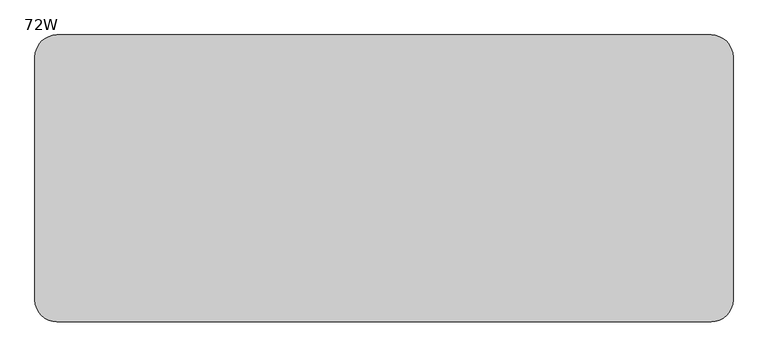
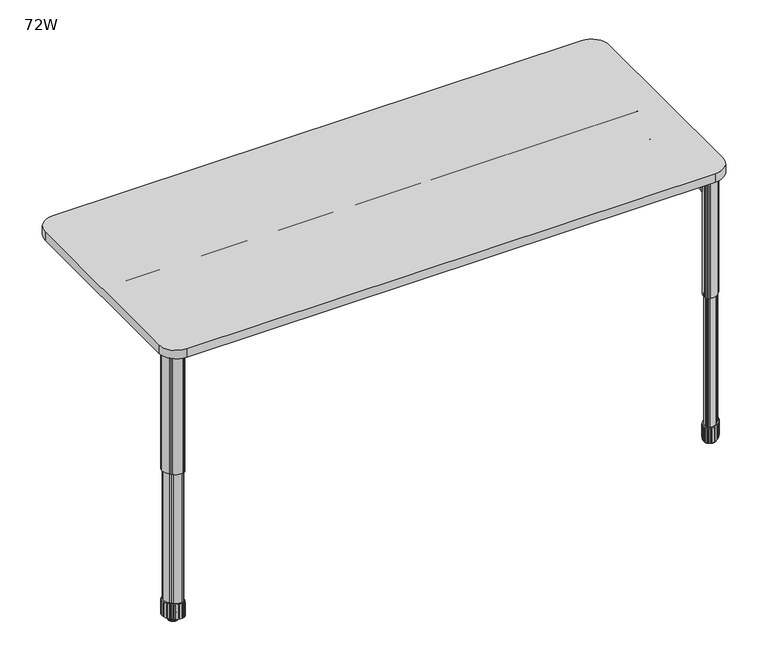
"""IFC4 building model written with IfcOpenShell, lengths in millimetres: furniture geometry, SmithSystem_AM_Table_Education_Interchange_Activity_30D : 72W."""

from ifc_helpers import new_model, si_unit, point, frame, frame_2d, origin, origin_with_axes, place, context, project, spatial, polyline, circle_curve, ellipse_curve, trimmed, segment, composite_curve, outline, extrude, source, transform, mapped, element, save
from ifc_brep_helpers import plane_surface, cylinder_surface, revolved_surface, advanced_brep


def furniture_72w_c9b032af(model_context):
    return source(origin(), model_context, "Body", "SolidModel", [
        extrude(outline(composite_curve([segment(polyline([(1758.2549731, 71.2321565), (1761.8470756, 74.824259), (1765.439178, 78.4163614)]), True, "CONTINUOUS"), segment(trimmed(circle_curve(frame_2d((1788.4806347, 55.3749047)), 32.5855406), [point((1765.439178, 78.4163614))], [point((1792.4518132, 87.7175576))], False, "CARTESIAN"), True, "CONTINUOUS"), segment(trimmed(circle_curve(frame_2d((1790.0540831, 68.1896136)), 19.6745954), [point((1792.4518132, 87.7175576))], [point((1797.6048334, 86.3576041))], False, "CARTESIAN"), True, "CONTINUOUS"), segment(trimmed(circle_curve(frame_2d((1794.1695797, 78.0919809)), 8.9510611), [point((1797.6048334, 86.3576041))], [point((1800.4989357, 84.4213369))], False, "CARTESIAN"), True, "CONTINUOUS"), segment(polyline([(1800.4989357, 84.4213369), (1801.2343195, 83.6859531), (1801.9697032, 82.9505693)]), True, "CONTINUOUS"), segment(trimmed(circle_curve(frame_2d((1795.6403472, 76.6212133)), 8.9510611), [point((1801.9697032, 82.9505693))], [point((1803.9059704, 80.056467))], False, "CARTESIAN"), True, "CONTINUOUS"), segment(trimmed(circle_curve(frame_2d((1785.73798, 72.5057168)), 19.6745954), [point((1803.9059704, 80.056467))], [point((1805.265924, 74.9034468))], False, "CARTESIAN"), True, "CONTINUOUS"), segment(trimmed(circle_curve(frame_2d((1772.923271, 70.9322684)), 32.5855406), [point((1805.265924, 74.9034468))], [point((1795.9647278, 47.8908116))], False, "CARTESIAN"), True, "CONTINUOUS"), segment(polyline([(1795.9647278, 47.8908116), (1792.3726253, 44.2987092), (1788.7805229, 40.7066067)]), True, "CONTINUOUS"), segment(trimmed(circle_curve(frame_2d((1765.7390661, 63.7480635)), 32.5855406), [point((1788.7805229, 40.7066067))], [point((1761.7678877, 31.4054105))], False, "CARTESIAN"), True, "CONTINUOUS"), segment(trimmed(circle_curve(frame_2d((1764.1656177, 50.9333545)), 19.6745954), [point((1761.7678877, 31.4054105))], [point((1756.6148675, 32.7653641))], False, "CARTESIAN"), True, "CONTINUOUS"), segment(trimmed(circle_curve(frame_2d((1760.0501212, 41.0309873)), 8.9510611), [point((1756.6148675, 32.7653641))], [point((1753.7207652, 34.7016313))], False, "CARTESIAN"), True, "CONTINUOUS"), segment(polyline([(1753.7207652, 34.7016313), (1752.9853814, 35.4370151), (1752.2499976, 36.1723988)]), True, "CONTINUOUS"), segment(trimmed(circle_curve(frame_2d((1758.5793536, 42.5017548)), 8.9510611), [point((1752.2499976, 36.1723988))], [point((1750.3137305, 39.0665011))], False, "CARTESIAN"), True, "CONTINUOUS"), segment(trimmed(circle_curve(frame_2d((1768.4817209, 46.6172514)), 19.6745954), [point((1750.3137305, 39.0665011))], [point((1748.9537769, 44.2195213))], False, "CARTESIAN"), True, "CONTINUOUS"), segment(trimmed(circle_curve(frame_2d((1781.2964298, 48.1906998)), 32.5855406), [point((1748.9537769, 44.2195213))], [point((1758.2549731, 71.2321565))], False, "CARTESIAN"), True, "CONTINUOUS")], self_intersect=False)), frame((0.0, 0.0, 12.7079691), z_axis=(0.0, 0.0, 1.0), x_axis=(1.0, 0.0, 0.0)), (0.0, 0.0, 1.0), 50.791766),
        extrude(outline(composite_curve([segment(trimmed(circle_curve(frame_2d((1777.1098504, 59.5614841)), 15.24), [point((1787.8861578, 70.3377914))], [point((1766.3335431, 48.7851767))], False, "CARTESIAN"), True, "CONTINUOUS"), segment(trimmed(circle_curve(frame_2d((1777.1098504, 59.5614841)), 15.24), [point((1766.3335431, 48.7851767))], [point((1787.8861578, 70.3377914))], False, "CARTESIAN"), True, "CONTINUOUS")], self_intersect=False)), origin_with_axes(), (0.0, 0.0, 1.0), 4.0499223),
        extrude(outline(composite_curve([segment(trimmed(circle_curve(frame_2d((1792.3726253, 44.2987092)), 1.27), [point((1793.2706509, 45.1967348))], [point((1791.4745997, 43.4006836))], False, "CARTESIAN"), True, "CONTINUOUS"), segment(polyline([(1791.4745997, 43.4006836), (1792.3726253, 44.2987092), (1793.2706509, 45.1967348)]), True, "CONTINUOUS")], self_intersect=False)), frame((0.0, 0.0, 16.2275456), z_axis=(0.0, 0.0, 1.0), x_axis=(1.0, 0.0, 0.0)), (0.0, 0.0, 1.0), 43.7457423),
        extrude(outline(composite_curve([segment(trimmed(circle_curve(frame_2d((1801.2080101, 83.6596437)), 1.27), [point((1800.3099845, 84.5576694))], [point((1802.1060357, 82.7616181))], False, "CARTESIAN"), True, "CONTINUOUS"), segment(polyline([(1802.1060357, 82.7616181), (1801.2080101, 83.6596437), (1800.3099845, 84.5576694)]), True, "CONTINUOUS")], self_intersect=False)), frame((0.0, 0.0, 16.2275456), z_axis=(0.0, 0.0, 1.0), x_axis=(1.0, 0.0, 0.0)), (0.0, 0.0, 1.0), 43.7457423),
        extrude(outline(composite_curve([segment(polyline([(1752.1136652, 36.36135), (1753.0116908, 35.4633244), (1753.9097164, 34.5652988)]), True, "CONTINUOUS"), segment(trimmed(circle_curve(frame_2d((1753.0116908, 35.4633244)), 1.27), [point((1753.9097164, 34.5652988))], [point((1752.1136652, 36.36135))], False, "CARTESIAN"), True, "CONTINUOUS")], self_intersect=False)), frame((0.0, 0.0, 16.2275456), z_axis=(0.0, 0.0, 1.0), x_axis=(1.0, 0.0, 0.0)), (0.0, 0.0, 1.0), 43.7457423),
        extrude(outline(composite_curve([segment(polyline([(1761.6120338, 31.4439485), (1762.8779787, 31.3425404), (1764.1439236, 31.2411324)]), True, "CONTINUOUS"), segment(trimmed(circle_curve(frame_2d((1762.8779787, 31.3425404)), 1.27), [point((1764.1439236, 31.2411324))], [point((1761.6120338, 31.4439485))], False, "CARTESIAN"), True, "CONTINUOUS")], self_intersect=False)), frame((0.0, 0.0, 16.2275456), z_axis=(0.0, 0.0, 1.0), x_axis=(1.0, 0.0, 0.0)), (0.0, 0.0, 1.0), 43.7457423),
        extrude(outline(composite_curve([segment(polyline([(1772.6909581, 31.960326), (1773.9209477, 32.2765941), (1775.1509373, 32.5928623)]), True, "CONTINUOUS"), segment(trimmed(circle_curve(frame_2d((1773.9209477, 32.2765941)), 1.27), [point((1775.1509373, 32.5928623))], [point((1772.6909581, 31.960326))], False, "CARTESIAN"), True, "CONTINUOUS")], self_intersect=False)), frame((0.0, 0.0, 16.2275456), z_axis=(0.0, 0.0, 1.0), x_axis=(1.0, 0.0, 0.0)), (0.0, 0.0, 1.0), 43.7457423),
        extrude(outline(composite_curve([segment(polyline([(1783.0294057, 36.1581671), (1784.0770478, 36.8760432), (1785.1246899, 37.5939193)]), True, "CONTINUOUS"), segment(trimmed(circle_curve(frame_2d((1784.0770478, 36.8760432)), 1.27), [point((1785.1246899, 37.5939193))], [point((1783.0294057, 36.1581671))], False, "CARTESIAN"), True, "CONTINUOUS")], self_intersect=False)), frame((0.0, 0.0, 16.2275456), z_axis=(0.0, 0.0, 1.0), x_axis=(1.0, 0.0, 0.0)), (0.0, 0.0, 1.0), 43.7457423),
        extrude(outline(composite_curve([segment(trimmed(circle_curve(frame_2d((1805.3287941, 73.7933558)), 1.27), [point((1805.227386, 75.0593007))], [point((1805.4302021, 72.5274109))], False, "CARTESIAN"), True, "CONTINUOUS"), segment(polyline([(1805.4302021, 72.5274109), (1805.3287941, 73.7933558), (1805.227386, 75.0593007)]), True, "CONTINUOUS")], self_intersect=False)), frame((0.0, 0.0, 16.2275456), z_axis=(0.0, 0.0, 1.0), x_axis=(1.0, 0.0, 0.0)), (0.0, 0.0, 1.0), 43.7457423),
        extrude(outline(composite_curve([segment(trimmed(circle_curve(frame_2d((1804.3947404, 62.7503868)), 1.27), [point((1804.7110085, 63.9803764))], [point((1804.0784722, 61.5203972))], False, "CARTESIAN"), True, "CONTINUOUS"), segment(polyline([(1804.0784722, 61.5203972), (1804.3947404, 62.7503868), (1804.7110085, 63.9803764)]), True, "CONTINUOUS")], self_intersect=False)), frame((0.0, 0.0, 16.2275456), z_axis=(0.0, 0.0, 1.0), x_axis=(1.0, 0.0, 0.0)), (0.0, 0.0, 1.0), 43.7457423),
        extrude(outline(composite_curve([segment(trimmed(circle_curve(frame_2d((1799.7952913, 52.5942867)), 1.27), [point((1800.5131674, 53.6419288))], [point((1799.0774152, 51.5466446))], False, "CARTESIAN"), True, "CONTINUOUS"), segment(polyline([(1799.0774152, 51.5466446), (1799.7952913, 52.5942867), (1800.5131674, 53.6419288)]), True, "CONTINUOUS")], self_intersect=False)), frame((0.0, 0.0, 16.2275456), z_axis=(0.0, 0.0, 1.0), x_axis=(1.0, 0.0, 0.0)), (0.0, 0.0, 1.0), 43.7457423),
        extrude(outline(composite_curve([segment(polyline([(1762.7451012, 75.7222846), (1761.8470756, 74.824259), (1760.9490499, 73.9262333)]), True, "CONTINUOUS"), segment(trimmed(circle_curve(frame_2d((1761.8470756, 74.824259)), 1.27), [point((1760.9490499, 73.9262333))], [point((1762.7451012, 75.7222846))], False, "CARTESIAN"), True, "CONTINUOUS")], self_intersect=False)), frame((0.0, 0.0, 16.2275456), z_axis=(0.0, 0.0, 1.0), x_axis=(1.0, 0.0, 0.0)), (0.0, 0.0, 1.0), 43.7457423),
        extrude(outline(composite_curve([segment(trimmed(circle_curve(frame_2d((1748.8909068, 45.3296123)), 1.27), [point((1748.9923149, 44.0636675))], [point((1748.7894988, 46.5955572))], False, "CARTESIAN"), True, "CONTINUOUS"), segment(polyline([(1748.7894988, 46.5955572), (1748.8909068, 45.3296123), (1748.9923149, 44.0636675)]), True, "CONTINUOUS")], self_intersect=False)), frame((0.0, 0.0, 16.2275456), z_axis=(0.0, 0.0, 1.0), x_axis=(1.0, 0.0, 0.0)), (0.0, 0.0, 1.0), 43.7457423),
        extrude(outline(composite_curve([segment(trimmed(circle_curve(frame_2d((1749.8249605, 56.3725813)), 1.27), [point((1749.5086924, 55.1425917))], [point((1750.1412287, 57.602571))], False, "CARTESIAN"), True, "CONTINUOUS"), segment(polyline([(1750.1412287, 57.602571), (1749.8249605, 56.3725813), (1749.5086924, 55.1425917)]), True, "CONTINUOUS")], self_intersect=False)), frame((0.0, 0.0, 16.2275456), z_axis=(0.0, 0.0, 1.0), x_axis=(1.0, 0.0, 0.0)), (0.0, 0.0, 1.0), 43.7457423),
        extrude(outline(composite_curve([segment(trimmed(circle_curve(frame_2d((1754.4244096, 66.5286815)), 1.27), [point((1753.7065335, 65.4810394))], [point((1755.1422857, 67.5763235))], False, "CARTESIAN"), True, "CONTINUOUS"), segment(polyline([(1755.1422857, 67.5763235), (1754.4244096, 66.5286815), (1753.7065335, 65.4810394)]), True, "CONTINUOUS")], self_intersect=False)), frame((0.0, 0.0, 16.2275456), z_axis=(0.0, 0.0, 1.0), x_axis=(1.0, 0.0, 0.0)), (0.0, 0.0, 1.0), 43.7457423),
        extrude(outline(composite_curve([segment(polyline([(1792.607667, 87.6790197), (1791.3417222, 87.7804277), (1790.0757773, 87.8818357)]), True, "CONTINUOUS"), segment(trimmed(circle_curve(frame_2d((1791.3417222, 87.7804277)), 1.27), [point((1790.0757773, 87.8818357))], [point((1792.607667, 87.6790197))], False, "CARTESIAN"), True, "CONTINUOUS")], self_intersect=False)), frame((0.0, 0.0, 16.2275456), z_axis=(0.0, 0.0, 1.0), x_axis=(1.0, 0.0, 0.0)), (0.0, 0.0, 1.0), 43.7457423),
        extrude(outline(composite_curve([segment(polyline([(1781.5287428, 87.1626422), (1780.2987532, 86.846374), (1779.0687635, 86.5301059)]), True, "CONTINUOUS"), segment(trimmed(circle_curve(frame_2d((1780.2987532, 86.846374)), 1.27), [point((1779.0687635, 86.5301059))], [point((1781.5287428, 87.1626422))], False, "CARTESIAN"), True, "CONTINUOUS")], self_intersect=False)), frame((0.0, 0.0, 16.2275456), z_axis=(0.0, 0.0, 1.0), x_axis=(1.0, 0.0, 0.0)), (0.0, 0.0, 1.0), 43.7457423),
        extrude(outline(composite_curve([segment(polyline([(1771.1902951, 82.964801), (1770.1426531, 82.2469249), (1769.095011, 81.5290489)]), True, "CONTINUOUS"), segment(trimmed(circle_curve(frame_2d((1770.1426531, 82.2469249)), 1.27), [point((1769.095011, 81.5290489))], [point((1771.1902951, 82.964801))], False, "CARTESIAN"), True, "CONTINUOUS")], self_intersect=False)), frame((0.0, 0.0, 16.2275456), z_axis=(0.0, 0.0, 1.0), x_axis=(1.0, 0.0, 0.0)), (0.0, 0.0, 1.0), 43.7457423),
        extrude(outline(composite_curve([segment(trimmed(circle_curve(frame_2d((1788.4806347, 55.3749047)), 28.7755406), [point((1768.1332548, 75.7222846))], [point((1791.987491, 83.9359568))], False, "CARTESIAN"), True, "CONTINUOUS"), segment(trimmed(circle_curve(frame_2d((1790.0540831, 68.1896136)), 15.8645954), [point((1791.987491, 83.9359568))], [point((1796.142625, 82.8393592))], False, "CARTESIAN"), True, "CONTINUOUS"), segment(trimmed(circle_curve(frame_2d((1794.1695797, 78.0919809)), 5.1410611), [point((1796.142625, 82.8393592))], [point((1797.8048588, 81.72726))], False, "CARTESIAN"), True, "CONTINUOUS"), segment(polyline([(1797.8048588, 81.72726), (1798.5402426, 80.9918762), (1799.2756264, 80.2564925)]), True, "CONTINUOUS"), segment(trimmed(circle_curve(frame_2d((1795.6403472, 76.6212133)), 5.1410611), [point((1799.2756264, 80.2564925))], [point((1800.3877256, 78.5942586))], False, "CARTESIAN"), True, "CONTINUOUS"), segment(trimmed(circle_curve(frame_2d((1785.73798, 72.5057168)), 15.8645954), [point((1800.3877256, 78.5942586))], [point((1801.4843231, 74.4391246))], False, "CARTESIAN"), True, "CONTINUOUS"), segment(trimmed(circle_curve(frame_2d((1772.923271, 70.9322684)), 28.7755406), [point((1801.4843231, 74.4391246))], [point((1793.2706509, 50.5848885))], False, "CARTESIAN"), True, "CONTINUOUS"), segment(polyline([(1793.2706509, 50.5848885), (1789.6785485, 46.992786), (1786.086446, 43.4006836)]), True, "CONTINUOUS"), segment(trimmed(circle_curve(frame_2d((1765.7390661, 63.7480635)), 28.7755406), [point((1786.086446, 43.4006836))], [point((1762.2322099, 35.1870114))], False, "CARTESIAN"), True, "CONTINUOUS"), segment(trimmed(circle_curve(frame_2d((1764.1656177, 50.9333545)), 15.8645954), [point((1762.2322099, 35.1870114))], [point((1758.0770759, 36.2836089))], False, "CARTESIAN"), True, "CONTINUOUS"), segment(trimmed(circle_curve(frame_2d((1760.0501212, 41.0309873)), 5.1410611), [point((1758.0770759, 36.2836089))], [point((1756.414842, 37.3957081))], False, "CARTESIAN"), True, "CONTINUOUS"), segment(polyline([(1756.414842, 37.3957081), (1755.6794583, 38.1310919), (1754.9440745, 38.8664757)]), True, "CONTINUOUS"), segment(trimmed(circle_curve(frame_2d((1758.5793536, 42.5017548)), 5.1410611), [point((1754.9440745, 38.8664757))], [point((1753.8319753, 40.5287095))], False, "CARTESIAN"), True, "CONTINUOUS"), segment(trimmed(circle_curve(frame_2d((1768.4817209, 46.6172514)), 15.8645954), [point((1753.8319753, 40.5287095))], [point((1752.7353777, 44.6838435))], False, "CARTESIAN"), True, "CONTINUOUS"), segment(trimmed(circle_curve(frame_2d((1781.2964298, 48.1906998)), 28.7755406), [point((1752.7353777, 44.6838435))], [point((1760.9490499, 68.5380797))], False, "CARTESIAN"), True, "CONTINUOUS"), segment(polyline([(1760.9490499, 68.5380797), (1764.5411524, 72.1301821), (1768.1332548, 75.7222846)]), True, "CONTINUOUS")], self_intersect=False)), frame((0.0, 0.0, 63.4997351), z_axis=(0.0, 0.0, 1.0), x_axis=(1.0, 0.0, 0.0)), (0.0, 0.0, 1.0), 440.4486802),
        extrude(outline(composite_curve([segment(trimmed(circle_curve(frame_2d((1765.7390661, 63.7480635)), 32.5855406), [point((1788.7805229, 40.7066067))], [point((1761.7678877, 31.4054105))], False, "CARTESIAN"), True, "CONTINUOUS"), segment(trimmed(circle_curve(frame_2d((1764.1656177, 50.9333545)), 19.6745954), [point((1761.7678877, 31.4054105))], [point((1756.6148675, 32.7653641))], False, "CARTESIAN"), True, "CONTINUOUS"), segment(trimmed(circle_curve(frame_2d((1760.0501212, 41.0309873)), 8.9510611), [point((1756.6148675, 32.7653641))], [point((1753.7207652, 34.7016313))], False, "CARTESIAN"), True, "CONTINUOUS"), segment(polyline([(1753.7207652, 34.7016313), (1752.9853814, 35.4370151), (1752.2499976, 36.1723988)]), True, "CONTINUOUS"), segment(trimmed(circle_curve(frame_2d((1758.5793536, 42.5017548)), 8.9510611), [point((1752.2499976, 36.1723988))], [point((1750.3137305, 39.0665011))], False, "CARTESIAN"), True, "CONTINUOUS"), segment(trimmed(circle_curve(frame_2d((1768.4817209, 46.6172514)), 19.6745954), [point((1750.3137305, 39.0665011))], [point((1748.9537769, 44.2195213))], False, "CARTESIAN"), True, "CONTINUOUS"), segment(trimmed(circle_curve(frame_2d((1781.2964298, 48.1906998)), 32.5855406), [point((1748.9537769, 44.2195213))], [point((1758.2549731, 71.2321565))], False, "CARTESIAN"), True, "CONTINUOUS"), segment(polyline([(1758.2549731, 71.2321565), (1761.8470756, 74.824259), (1765.439178, 78.4163614)]), True, "CONTINUOUS"), segment(trimmed(circle_curve(frame_2d((1788.4806347, 55.3749047)), 32.5855406), [point((1765.439178, 78.4163614))], [point((1792.4518132, 87.7175576))], False, "CARTESIAN"), True, "CONTINUOUS"), segment(trimmed(circle_curve(frame_2d((1790.0540831, 68.1896136)), 19.6745954), [point((1792.4518132, 87.7175576))], [point((1797.6048334, 86.3576041))], False, "CARTESIAN"), True, "CONTINUOUS"), segment(trimmed(circle_curve(frame_2d((1794.1695797, 78.0919809)), 8.9510611), [point((1797.6048334, 86.3576041))], [point((1800.4989357, 84.4213369))], False, "CARTESIAN"), True, "CONTINUOUS"), segment(polyline([(1800.4989357, 84.4213369), (1801.2343195, 83.6859531), (1801.9697032, 82.9505693)]), True, "CONTINUOUS"), segment(trimmed(circle_curve(frame_2d((1795.6403472, 76.6212133)), 8.9510611), [point((1801.9697032, 82.9505693))], [point((1803.9059704, 80.056467))], False, "CARTESIAN"), True, "CONTINUOUS"), segment(trimmed(circle_curve(frame_2d((1785.73798, 72.5057168)), 19.6745954), [point((1803.9059704, 80.056467))], [point((1805.265924, 74.9034468))], False, "CARTESIAN"), True, "CONTINUOUS"), segment(trimmed(circle_curve(frame_2d((1772.923271, 70.9322684)), 32.5855406), [point((1805.265924, 74.9034468))], [point((1795.9647278, 47.8908116))], False, "CARTESIAN"), True, "CONTINUOUS"), segment(polyline([(1795.9647278, 47.8908116), (1792.3726253, 44.2987092), (1788.7805229, 40.7066067)]), True, "CONTINUOUS")], self_intersect=False)), frame((0.0, 0.0, 503.9484153), z_axis=(0.0, 0.0, 1.0), x_axis=(1.0, 0.0, 0.0)), (0.0, 0.0, 1.0), 405.2764888),
        extrude(outline(polyline([(1778.406676, 85.1609527), (1751.5650478, 58.3193245), (1748.2201876, 61.6641848), (1775.0618157, 88.5058129), (1778.406676, 85.1609527)])), frame((0.0, 0.0, 853.198382), z_axis=(0.0, 0.0, 1.0), x_axis=(1.0, 0.0, 0.0)), (0.0, 0.0, 1.0), 56.0265221),
        advanced_brep(
        [(40.9483, 49.1331837, 4.0499223), (61.8049007, 69.9897844, 4.0499223), (51.3766004, 59.5614841, 4.0499223), (39.1522488, 47.3371325, 6.5899223), (63.6009519, 71.7858356, 6.5899223), (39.1522488, 47.3371325, 10.1679691), (63.6009519, 71.7858356, 10.1679691), (40.9483, 49.1331837, 12.7079691), (61.8049007, 69.9897844, 12.7079691), (51.3766004, 59.5614841, 12.7079691)],
        [
            (0, 1, circle_curve(frame((51.3766004, 59.5614841, 4.0499223), z_axis=(0.0, 0.0, -1.0), x_axis=(0.7071067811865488, 0.7071067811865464, 0.0)), 14.7478438)),
            (1, 2),
            (2, 0),
            (1, 0, circle_curve(frame((51.3766004, 59.5614841, 4.0499223), z_axis=(0.0, 0.0, -1.0), x_axis=(0.7071067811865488, 0.7071067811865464, 0.0)), 14.7478438)),
            (3, 4, circle_curve(frame((51.3766004, 59.5614841, 6.5899223), z_axis=(0.0, 0.0, -1.0), x_axis=(0.7071067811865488, 0.7071067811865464, 0.0)), 17.2878438)),
            (4, 1, circle_curve(frame((61.8049007, 69.9897844, 6.5899223), z_axis=(-0.7071067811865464, 0.7071067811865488, 0.0), x_axis=(0.7071067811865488, 0.7071067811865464, 0.0)), 2.54)),
            (0, 3, circle_curve(frame((40.9483, 49.1331837, 6.5899223), z_axis=(-0.707106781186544, 0.7071067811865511, 0.0), x_axis=(-0.7071067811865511, -0.707106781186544, 0.0)), 2.54)),
            (4, 3, circle_curve(frame((51.3766004, 59.5614841, 6.5899223), z_axis=(0.0, 0.0, -1.0), x_axis=(0.7071067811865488, 0.7071067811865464, 0.0)), 17.2878438)),
            (5, 6, circle_curve(frame((51.3766004, 59.5614841, 10.1679691), z_axis=(0.0, 0.0, -1.0), x_axis=(0.7071067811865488, 0.7071067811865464, 0.0)), 17.2878438)),
            (6, 4),
            (3, 5),
            (6, 5, circle_curve(frame((51.3766004, 59.5614841, 10.1679691), z_axis=(0.0, 0.0, -1.0), x_axis=(0.7071067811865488, 0.7071067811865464, 0.0)), 17.2878438)),
            (7, 8, circle_curve(frame((51.3766004, 59.5614841, 12.7079691), z_axis=(0.0, 0.0, -1.0), x_axis=(0.7071067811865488, 0.7071067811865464, 0.0)), 14.7478438)),
            (8, 6, circle_curve(frame((61.8049007, 69.9897844, 10.1679691), z_axis=(-0.7071067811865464, 0.7071067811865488, 0.0), x_axis=(0.7071067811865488, 0.7071067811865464, 0.0)), 2.54)),
            (5, 7, circle_curve(frame((40.9483, 49.1331837, 10.1679691), z_axis=(-0.707106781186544, 0.7071067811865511, 0.0), x_axis=(-0.7071067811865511, -0.707106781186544, 0.0)), 2.54)),
            (8, 7, circle_curve(frame((51.3766004, 59.5614841, 12.7079691), z_axis=(0.0, 0.0, -1.0), x_axis=(0.7071067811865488, 0.7071067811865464, 0.0)), 14.7478438)),
            (9, 8),
            (7, 9),
        ],
        [
            plane_surface(frame((51.3766004, 59.5614841, 4.0499223), z_axis=(0.0, 0.0, -1.0), x_axis=(0.7071067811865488, 0.7071067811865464, 0.0))),
            revolved_surface(trimmed(ellipse_curve(frame((61.8049007, 69.9897844, 6.5899223), z_axis=(0.7071067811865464, -0.7071067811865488, 0.0), x_axis=(0.7071067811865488, 0.7071067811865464, 0.0)), 2.54, 2.54), [point((61.8049007, 69.9897844, 4.0499223))], [point((63.6009519, 71.7858356, 6.5899223))], True, "CARTESIAN"), (51.3766004, 59.5614841, 3.1355675), (0.0, 0.0, 1.0)),
            cylinder_surface(frame((51.3766004, 59.5614841, 3.1355675), z_axis=(0.0, 0.0, 1.0), x_axis=(0.7071067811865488, 0.7071067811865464, 0.0)), 17.2878438),
            revolved_surface(trimmed(ellipse_curve(frame((61.8049007, 69.9897844, 10.1679691), z_axis=(0.7071067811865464, -0.7071067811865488, 0.0), x_axis=(0.7071067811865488, 0.7071067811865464, 0.0)), 2.54, 2.54), [point((63.6009519, 71.7858356, 10.1679691))], [point((61.8049007, 69.9897844, 12.7079691))], True, "CARTESIAN"), (51.3766004, 59.5614841, 3.1355675), (0.0, 0.0, 1.0)),
            plane_surface(frame((51.3766004, 59.5614841, 12.7079691), z_axis=(0.0, 0.0, 1.0), x_axis=(0.7071067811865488, 0.7071067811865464, 0.0))),
        ],
        [
            (0, [[1, 2, 3]]),
            (0, [[4, -3, -2]]),
            (1, [[5, 6, -1, 7]]),
            (1, [[8, -7, -4, -6]]),
            (2, [[9, 10, -5, 11]]),
            (2, [[12, -11, -8, -10]]),
            (3, [[13, 14, -9, 15]]),
            (3, [[16, -15, -12, -14]]),
            (4, [[17, -13, 18]]),
            (4, [[-18, -16, -17]]),
        ],
    ),
        extrude(outline(composite_curve([segment(trimmed(circle_curve(frame_2d((47.190021, 48.1906998)), 32.5855406), [point((70.2314777, 71.2321565))], [point((79.5326739, 44.2195213))], False, "CARTESIAN"), True, "CONTINUOUS"), segment(trimmed(circle_curve(frame_2d((60.0047299, 46.6172514)), 19.6745954), [point((79.5326739, 44.2195213))], [point((78.1727203, 39.0665011))], False, "CARTESIAN"), True, "CONTINUOUS"), segment(trimmed(circle_curve(frame_2d((69.9070972, 42.5017548)), 8.9510611), [point((78.1727203, 39.0665011))], [point((76.2364532, 36.1723988))], False, "CARTESIAN"), True, "CONTINUOUS"), segment(polyline([(76.2364532, 36.1723988), (75.5010694, 35.4370151), (74.7656856, 34.7016313)]), True, "CONTINUOUS"), segment(trimmed(circle_curve(frame_2d((68.4363296, 41.0309873)), 8.9510611), [point((74.7656856, 34.7016313))], [point((71.8715833, 32.7653641))], False, "CARTESIAN"), True, "CONTINUOUS"), segment(trimmed(circle_curve(frame_2d((64.3208331, 50.9333545)), 19.6745954), [point((71.8715833, 32.7653641))], [point((66.7185631, 31.4054105))], False, "CARTESIAN"), True, "CONTINUOUS"), segment(trimmed(circle_curve(frame_2d((62.7473847, 63.7480635)), 32.5855406), [point((66.7185631, 31.4054105))], [point((39.7059279, 40.7066067))], False, "CARTESIAN"), True, "CONTINUOUS"), segment(polyline([(39.7059279, 40.7066067), (36.1138255, 44.2987092), (32.521723, 47.8908116)]), True, "CONTINUOUS"), segment(trimmed(circle_curve(frame_2d((55.5631798, 70.9322684)), 32.5855406), [point((32.521723, 47.8908116))], [point((23.2205268, 74.9034468))], False, "CARTESIAN"), True, "CONTINUOUS"), segment(trimmed(circle_curve(frame_2d((42.7484708, 72.5057168)), 19.6745954), [point((23.2205268, 74.9034468))], [point((24.5804804, 80.056467))], False, "CARTESIAN"), True, "CONTINUOUS"), segment(trimmed(circle_curve(frame_2d((32.8461036, 76.6212133)), 8.9510611), [point((24.5804804, 80.056467))], [point((26.5167476, 82.9505693))], False, "CARTESIAN"), True, "CONTINUOUS"), segment(polyline([(26.5167476, 82.9505693), (27.2521313, 83.6859531), (27.9875151, 84.4213369)]), True, "CONTINUOUS"), segment(trimmed(circle_curve(frame_2d((34.3168711, 78.0919809)), 8.9510611), [point((27.9875151, 84.4213369))], [point((30.8816174, 86.3576041))], False, "CARTESIAN"), True, "CONTINUOUS"), segment(trimmed(circle_curve(frame_2d((38.4323677, 68.1896136)), 19.6745954), [point((30.8816174, 86.3576041))], [point((36.0346376, 87.7175576))], False, "CARTESIAN"), True, "CONTINUOUS"), segment(trimmed(circle_curve(frame_2d((40.0058161, 55.3749047)), 32.5855406), [point((36.0346376, 87.7175576))], [point((63.0472728, 78.4163614))], False, "CARTESIAN"), True, "CONTINUOUS"), segment(polyline([(63.0472728, 78.4163614), (66.6393752, 74.824259), (70.2314777, 71.2321565)]), True, "CONTINUOUS")], self_intersect=False)), frame((0.0, 0.0, 12.7079691), z_axis=(0.0, 0.0, 1.0), x_axis=(1.0, 0.0, 0.0)), (0.0, 0.0, 1.0), 50.791766),
        extrude(outline(composite_curve([segment(trimmed(circle_curve(frame_2d((51.3766004, 59.5614841)), 15.24), [point((40.600293, 70.3377914))], [point((62.1529077, 48.7851767))], False, "CARTESIAN"), True, "CONTINUOUS"), segment(trimmed(circle_curve(frame_2d((51.3766004, 59.5614841)), 15.24), [point((62.1529077, 48.7851767))], [point((40.600293, 70.3377914))], False, "CARTESIAN"), True, "CONTINUOUS")], self_intersect=False)), origin_with_axes(), (0.0, 0.0, 1.0), 4.0499223),
        extrude(outline(composite_curve([segment(polyline([(35.2157999, 45.1967348), (36.1138255, 44.2987092), (37.0118511, 43.4006836)]), True, "CONTINUOUS"), segment(trimmed(circle_curve(frame_2d((36.1138255, 44.2987092)), 1.27), [point((37.0118511, 43.4006836))], [point((35.2157999, 45.1967348))], False, "CARTESIAN"), True, "CONTINUOUS")], self_intersect=False)), frame((0.0, 0.0, 16.2275456), z_axis=(0.0, 0.0, 1.0), x_axis=(1.0, 0.0, 0.0)), (0.0, 0.0, 1.0), 43.7457423),
        extrude(outline(composite_curve([segment(polyline([(28.1764663, 84.5576694), (27.2784407, 83.6596437), (26.3804151, 82.7616181)]), True, "CONTINUOUS"), segment(trimmed(circle_curve(frame_2d((27.2784407, 83.6596437)), 1.27), [point((26.3804151, 82.7616181))], [point((28.1764663, 84.5576694))], False, "CARTESIAN"), True, "CONTINUOUS")], self_intersect=False)), frame((0.0, 0.0, 16.2275456), z_axis=(0.0, 0.0, 1.0), x_axis=(1.0, 0.0, 0.0)), (0.0, 0.0, 1.0), 43.7457423),
        extrude(outline(composite_curve([segment(trimmed(circle_curve(frame_2d((75.47476, 35.4633244)), 1.27), [point((76.3727856, 36.36135))], [point((74.5767344, 34.5652988))], False, "CARTESIAN"), True, "CONTINUOUS"), segment(polyline([(74.5767344, 34.5652988), (75.47476, 35.4633244), (76.3727856, 36.36135)]), True, "CONTINUOUS")], self_intersect=False)), frame((0.0, 0.0, 16.2275456), z_axis=(0.0, 0.0, 1.0), x_axis=(1.0, 0.0, 0.0)), (0.0, 0.0, 1.0), 43.7457423),
        extrude(outline(composite_curve([segment(trimmed(circle_curve(frame_2d((65.6084721, 31.3425404)), 1.27), [point((66.874417, 31.4439485))], [point((64.3425272, 31.2411324))], False, "CARTESIAN"), True, "CONTINUOUS"), segment(polyline([(64.3425272, 31.2411324), (65.6084721, 31.3425404), (66.874417, 31.4439485)]), True, "CONTINUOUS")], self_intersect=False)), frame((0.0, 0.0, 16.2275456), z_axis=(0.0, 0.0, 1.0), x_axis=(1.0, 0.0, 0.0)), (0.0, 0.0, 1.0), 43.7457423),
        extrude(outline(composite_curve([segment(trimmed(circle_curve(frame_2d((54.5655031, 32.2765941)), 1.27), [point((55.7954927, 31.960326))], [point((53.3355135, 32.5928623))], False, "CARTESIAN"), True, "CONTINUOUS"), segment(polyline([(53.3355135, 32.5928623), (54.5655031, 32.2765941), (55.7954927, 31.960326)]), True, "CONTINUOUS")], self_intersect=False)), frame((0.0, 0.0, 16.2275456), z_axis=(0.0, 0.0, 1.0), x_axis=(1.0, 0.0, 0.0)), (0.0, 0.0, 1.0), 43.7457423),
        extrude(outline(composite_curve([segment(trimmed(circle_curve(frame_2d((44.409403, 36.8760432)), 1.27), [point((45.4570451, 36.1581671))], [point((43.3617609, 37.5939193))], False, "CARTESIAN"), True, "CONTINUOUS"), segment(polyline([(43.3617609, 37.5939193), (44.409403, 36.8760432), (45.4570451, 36.1581671)]), True, "CONTINUOUS")], self_intersect=False)), frame((0.0, 0.0, 16.2275456), z_axis=(0.0, 0.0, 1.0), x_axis=(1.0, 0.0, 0.0)), (0.0, 0.0, 1.0), 43.7457423),
        extrude(outline(composite_curve([segment(polyline([(23.2590648, 75.0593007), (23.1576567, 73.7933558), (23.0562487, 72.5274109)]), True, "CONTINUOUS"), segment(trimmed(circle_curve(frame_2d((23.1576567, 73.7933558)), 1.27), [point((23.0562487, 72.5274109))], [point((23.2590648, 75.0593007))], False, "CARTESIAN"), True, "CONTINUOUS")], self_intersect=False)), frame((0.0, 0.0, 16.2275456), z_axis=(0.0, 0.0, 1.0), x_axis=(1.0, 0.0, 0.0)), (0.0, 0.0, 1.0), 43.7457423),
        extrude(outline(composite_curve([segment(polyline([(23.7754423, 63.9803764), (24.0917104, 62.7503868), (24.4079786, 61.5203972)]), True, "CONTINUOUS"), segment(trimmed(circle_curve(frame_2d((24.0917104, 62.7503868)), 1.27), [point((24.4079786, 61.5203972))], [point((23.7754423, 63.9803764))], False, "CARTESIAN"), True, "CONTINUOUS")], self_intersect=False)), frame((0.0, 0.0, 16.2275456), z_axis=(0.0, 0.0, 1.0), x_axis=(1.0, 0.0, 0.0)), (0.0, 0.0, 1.0), 43.7457423),
        extrude(outline(composite_curve([segment(polyline([(27.9732834, 53.6419288), (28.6911595, 52.5942867), (29.4090356, 51.5466446)]), True, "CONTINUOUS"), segment(trimmed(circle_curve(frame_2d((28.6911595, 52.5942867)), 1.27), [point((29.4090356, 51.5466446))], [point((27.9732834, 53.6419288))], False, "CARTESIAN"), True, "CONTINUOUS")], self_intersect=False)), frame((0.0, 0.0, 16.2275456), z_axis=(0.0, 0.0, 1.0), x_axis=(1.0, 0.0, 0.0)), (0.0, 0.0, 1.0), 43.7457423),
        extrude(outline(composite_curve([segment(trimmed(circle_curve(frame_2d((66.6393752, 74.824259)), 1.27), [point((65.7413496, 75.7222846))], [point((67.5374009, 73.9262333))], False, "CARTESIAN"), True, "CONTINUOUS"), segment(polyline([(67.5374009, 73.9262333), (66.6393752, 74.824259), (65.7413496, 75.7222846)]), True, "CONTINUOUS")], self_intersect=False)), frame((0.0, 0.0, 16.2275456), z_axis=(0.0, 0.0, 1.0), x_axis=(1.0, 0.0, 0.0)), (0.0, 0.0, 1.0), 43.7457423),
        extrude(outline(composite_curve([segment(polyline([(79.4941359, 44.0636675), (79.595544, 45.3296123), (79.696952, 46.5955572)]), True, "CONTINUOUS"), segment(trimmed(circle_curve(frame_2d((79.595544, 45.3296123)), 1.27), [point((79.696952, 46.5955572))], [point((79.4941359, 44.0636675))], False, "CARTESIAN"), True, "CONTINUOUS")], self_intersect=False)), frame((0.0, 0.0, 16.2275456), z_axis=(0.0, 0.0, 1.0), x_axis=(1.0, 0.0, 0.0)), (0.0, 0.0, 1.0), 43.7457423),
        extrude(outline(composite_curve([segment(polyline([(78.9777584, 55.1425917), (78.6614903, 56.3725813), (78.3452221, 57.602571)]), True, "CONTINUOUS"), segment(trimmed(circle_curve(frame_2d((78.6614903, 56.3725813)), 1.27), [point((78.3452221, 57.602571))], [point((78.9777584, 55.1425917))], False, "CARTESIAN"), True, "CONTINUOUS")], self_intersect=False)), frame((0.0, 0.0, 16.2275456), z_axis=(0.0, 0.0, 1.0), x_axis=(1.0, 0.0, 0.0)), (0.0, 0.0, 1.0), 43.7457423),
        extrude(outline(composite_curve([segment(polyline([(74.7799173, 65.4810394), (74.0620412, 66.5286815), (73.3441651, 67.5763235)]), True, "CONTINUOUS"), segment(trimmed(circle_curve(frame_2d((74.0620412, 66.5286815)), 1.27), [point((73.3441651, 67.5763235))], [point((74.7799173, 65.4810394))], False, "CARTESIAN"), True, "CONTINUOUS")], self_intersect=False)), frame((0.0, 0.0, 16.2275456), z_axis=(0.0, 0.0, 1.0), x_axis=(1.0, 0.0, 0.0)), (0.0, 0.0, 1.0), 43.7457423),
        extrude(outline(composite_curve([segment(trimmed(circle_curve(frame_2d((37.1447286, 87.7804277)), 1.27), [point((35.8787838, 87.6790197))], [point((38.4106735, 87.8818357))], False, "CARTESIAN"), True, "CONTINUOUS"), segment(polyline([(38.4106735, 87.8818357), (37.1447286, 87.7804277), (35.8787838, 87.6790197)]), True, "CONTINUOUS")], self_intersect=False)), frame((0.0, 0.0, 16.2275456), z_axis=(0.0, 0.0, 1.0), x_axis=(1.0, 0.0, 0.0)), (0.0, 0.0, 1.0), 43.7457423),
        extrude(outline(composite_curve([segment(trimmed(circle_curve(frame_2d((48.1876976, 86.846374)), 1.27), [point((46.957708, 87.1626422))], [point((49.4176872, 86.5301059))], False, "CARTESIAN"), True, "CONTINUOUS"), segment(polyline([(49.4176872, 86.5301059), (48.1876976, 86.846374), (46.957708, 87.1626422)]), True, "CONTINUOUS")], self_intersect=False)), frame((0.0, 0.0, 16.2275456), z_axis=(0.0, 0.0, 1.0), x_axis=(1.0, 0.0, 0.0)), (0.0, 0.0, 1.0), 43.7457423),
        extrude(outline(composite_curve([segment(trimmed(circle_curve(frame_2d((58.3437977, 82.2469249)), 1.27), [point((57.2961557, 82.964801))], [point((59.3914398, 81.5290489))], False, "CARTESIAN"), True, "CONTINUOUS"), segment(polyline([(59.3914398, 81.5290489), (58.3437977, 82.2469249), (57.2961557, 82.964801)]), True, "CONTINUOUS")], self_intersect=False)), frame((0.0, 0.0, 16.2275456), z_axis=(0.0, 0.0, 1.0), x_axis=(1.0, 0.0, 0.0)), (0.0, 0.0, 1.0), 43.7457423),
        extrude(outline(composite_curve([segment(polyline([(60.353196, 75.7222846), (63.9452984, 72.1301821), (67.5374009, 68.5380797)]), True, "CONTINUOUS"), segment(trimmed(circle_curve(frame_2d((47.190021, 48.1906998)), 28.7755406), [point((67.5374009, 68.5380797))], [point((75.7510731, 44.6838435))], False, "CARTESIAN"), True, "CONTINUOUS"), segment(trimmed(circle_curve(frame_2d((60.0047299, 46.6172514)), 15.8645954), [point((75.7510731, 44.6838435))], [point((74.6544755, 40.5287095))], False, "CARTESIAN"), True, "CONTINUOUS"), segment(trimmed(circle_curve(frame_2d((69.9070972, 42.5017548)), 5.1410611), [point((74.6544755, 40.5287095))], [point((73.5423763, 38.8664757))], False, "CARTESIAN"), True, "CONTINUOUS"), segment(polyline([(73.5423763, 38.8664757), (72.8069925, 38.1310919), (72.0716088, 37.3957081)]), True, "CONTINUOUS"), segment(trimmed(circle_curve(frame_2d((68.4363296, 41.0309873)), 5.1410611), [point((72.0716088, 37.3957081))], [point((70.4093749, 36.2836089))], False, "CARTESIAN"), True, "CONTINUOUS"), segment(trimmed(circle_curve(frame_2d((64.3208331, 50.9333545)), 15.8645954), [point((70.4093749, 36.2836089))], [point((66.2542409, 35.1870114))], False, "CARTESIAN"), True, "CONTINUOUS"), segment(trimmed(circle_curve(frame_2d((62.7473847, 63.7480635)), 28.7755406), [point((66.2542409, 35.1870114))], [point((42.4000048, 43.4006836))], False, "CARTESIAN"), True, "CONTINUOUS"), segment(polyline([(42.4000048, 43.4006836), (38.8079023, 46.992786), (35.2157999, 50.5848885)]), True, "CONTINUOUS"), segment(trimmed(circle_curve(frame_2d((55.5631798, 70.9322684)), 28.7755406), [point((35.2157999, 50.5848885))], [point((27.0021277, 74.4391246))], False, "CARTESIAN"), True, "CONTINUOUS"), segment(trimmed(circle_curve(frame_2d((42.7484708, 72.5057168)), 15.8645954), [point((27.0021277, 74.4391246))], [point((28.0987252, 78.5942586))], False, "CARTESIAN"), True, "CONTINUOUS"), segment(trimmed(circle_curve(frame_2d((32.8461036, 76.6212133)), 5.1410611), [point((28.0987252, 78.5942586))], [point((29.2108244, 80.2564925))], False, "CARTESIAN"), True, "CONTINUOUS"), segment(polyline([(29.2108244, 80.2564925), (29.9462082, 80.9918762), (30.681592, 81.72726)]), True, "CONTINUOUS"), segment(trimmed(circle_curve(frame_2d((34.3168711, 78.0919809)), 5.1410611), [point((30.681592, 81.72726))], [point((32.3438258, 82.8393592))], False, "CARTESIAN"), True, "CONTINUOUS"), segment(trimmed(circle_curve(frame_2d((38.4323677, 68.1896136)), 15.8645954), [point((32.3438258, 82.8393592))], [point((36.4989598, 83.9359568))], False, "CARTESIAN"), True, "CONTINUOUS"), segment(trimmed(circle_curve(frame_2d((40.0058161, 55.3749047)), 28.7755406), [point((36.4989598, 83.9359568))], [point((60.353196, 75.7222846))], False, "CARTESIAN"), True, "CONTINUOUS")], self_intersect=False)), frame((0.0, 0.0, 63.4997351), z_axis=(0.0, 0.0, 1.0), x_axis=(1.0, 0.0, 0.0)), (0.0, 0.0, 1.0), 440.4486802),
        extrude(outline(composite_curve([segment(polyline([(39.7059279, 40.7066067), (36.1138255, 44.2987092), (32.521723, 47.8908116)]), True, "CONTINUOUS"), segment(trimmed(circle_curve(frame_2d((55.5631798, 70.9322684)), 32.5855406), [point((32.521723, 47.8908116))], [point((23.2205268, 74.9034468))], False, "CARTESIAN"), True, "CONTINUOUS"), segment(trimmed(circle_curve(frame_2d((42.7484708, 72.5057168)), 19.6745954), [point((23.2205268, 74.9034468))], [point((24.5804804, 80.056467))], False, "CARTESIAN"), True, "CONTINUOUS"), segment(trimmed(circle_curve(frame_2d((32.8461036, 76.6212133)), 8.9510611), [point((24.5804804, 80.056467))], [point((26.5167476, 82.9505693))], False, "CARTESIAN"), True, "CONTINUOUS"), segment(polyline([(26.5167476, 82.9505693), (27.2521313, 83.6859531), (27.9875151, 84.4213369)]), True, "CONTINUOUS"), segment(trimmed(circle_curve(frame_2d((34.3168711, 78.0919809)), 8.9510611), [point((27.9875151, 84.4213369))], [point((30.8816174, 86.3576041))], False, "CARTESIAN"), True, "CONTINUOUS"), segment(trimmed(circle_curve(frame_2d((38.4323677, 68.1896136)), 19.6745954), [point((30.8816174, 86.3576041))], [point((36.0346376, 87.7175576))], False, "CARTESIAN"), True, "CONTINUOUS"), segment(trimmed(circle_curve(frame_2d((40.0058161, 55.3749047)), 32.5855406), [point((36.0346376, 87.7175576))], [point((63.0472728, 78.4163614))], False, "CARTESIAN"), True, "CONTINUOUS"), segment(polyline([(63.0472728, 78.4163614), (66.6393752, 74.824259), (70.2314777, 71.2321565)]), True, "CONTINUOUS"), segment(trimmed(circle_curve(frame_2d((47.190021, 48.1906998)), 32.5855406), [point((70.2314777, 71.2321565))], [point((79.5326739, 44.2195213))], False, "CARTESIAN"), True, "CONTINUOUS"), segment(trimmed(circle_curve(frame_2d((60.0047299, 46.6172514)), 19.6745954), [point((79.5326739, 44.2195213))], [point((78.1727203, 39.0665011))], False, "CARTESIAN"), True, "CONTINUOUS"), segment(trimmed(circle_curve(frame_2d((69.9070972, 42.5017548)), 8.9510611), [point((78.1727203, 39.0665011))], [point((76.2364532, 36.1723988))], False, "CARTESIAN"), True, "CONTINUOUS"), segment(polyline([(76.2364532, 36.1723988), (75.5010694, 35.4370151), (74.7656856, 34.7016313)]), True, "CONTINUOUS"), segment(trimmed(circle_curve(frame_2d((68.4363296, 41.0309873)), 8.9510611), [point((74.7656856, 34.7016313))], [point((71.8715833, 32.7653641))], False, "CARTESIAN"), True, "CONTINUOUS"), segment(trimmed(circle_curve(frame_2d((64.3208331, 50.9333545)), 19.6745954), [point((71.8715833, 32.7653641))], [point((66.7185631, 31.4054105))], False, "CARTESIAN"), True, "CONTINUOUS"), segment(trimmed(circle_curve(frame_2d((62.7473847, 63.7480635)), 32.5855406), [point((66.7185631, 31.4054105))], [point((39.7059279, 40.7066067))], False, "CARTESIAN"), True, "CONTINUOUS")], self_intersect=False)), frame((0.0, 0.0, 503.9484153), z_axis=(0.0, 0.0, 1.0), x_axis=(1.0, 0.0, 0.0)), (0.0, 0.0, 1.0), 405.2764888),
        extrude(outline(polyline([(50.0797748, 85.1609527), (53.4246351, 88.5058129), (80.2662632, 61.6641848), (76.921403, 58.3193245), (50.0797748, 85.1609527)])), frame((0.0, 0.0, 853.198382), z_axis=(0.0, 0.0, 1.0), x_axis=(1.0, 0.0, 0.0)), (0.0, 0.0, 1.0), 56.0265221),
        extrude(outline(polyline([(53.7381843, 88.1922637), (53.7381843, 673.8032104), (79.1384349, 699.203461), (79.1384349, 62.7920131), (53.7381843, 88.1922637)])), frame((0.0, 0.0, 853.198382), z_axis=(0.0, 0.0, 1.0), x_axis=(1.0, 0.0, 0.0)), (0.0, 0.0, 1.0), 57.997768),
        extrude(outline(polyline([(1775.0618157, 88.1922637), (1749.6615651, 62.7920131), (1749.6615651, 699.2051156), (1775.0618157, 673.804865), (1775.0618157, 88.1922637)])), frame((0.0, 0.0, 853.198382), z_axis=(0.0, 0.0, 1.0), x_axis=(1.0, 0.0, 0.0)), (0.0, 0.0, 1.0), 57.997768),
        extrude(outline(composite_curve([segment(polyline([(405.9767718, 858.6514043), (415.5017672, 858.6514043)]), True, "CONTINUOUS"), segment(trimmed(circle_curve(frame_2d((415.5017672, 859.9290198)), 1.2776155), [point((415.5017672, 858.6514043))], [point((416.7793827, 859.9290198))], True, "CARTESIAN"), True, "CONTINUOUS"), segment(polyline([(416.7793827, 859.9290198), (416.7793827, 907.9549041)]), True, "CONTINUOUS"), segment(trimmed(circle_curve(frame_2d((415.5093827, 907.9549041)), 1.27), [point((416.7793827, 907.9549041))], [point((415.5093827, 909.2249041))], True, "CARTESIAN"), True, "CONTINUOUS"), segment(polyline([(415.5093827, 909.2249041), (346.4860914, 909.2249041)]), True, "CONTINUOUS"), segment(trimmed(circle_curve(frame_2d((346.4860914, 907.9549041)), 1.27), [point((346.4860914, 909.2249041))], [point((345.2160914, 907.9549041))], True, "CARTESIAN"), True, "CONTINUOUS"), segment(polyline([(345.2160914, 907.9549041), (345.2160914, 859.9290198)]), True, "CONTINUOUS"), segment(trimmed(circle_curve(frame_2d((346.4937069, 859.9290198)), 1.2776155), [point((345.2160914, 859.9290198))], [point((346.4937069, 858.6514043))], True, "CARTESIAN"), True, "CONTINUOUS"), segment(polyline([(346.4937069, 858.6514043), (356.0187024, 858.6514043), (356.0187024, 856.7540274), (346.4937069, 856.7540274)]), True, "CONTINUOUS"), segment(trimmed(circle_curve(frame_2d((346.4937069, 859.9290493)), 3.175022), [point((346.4937069, 856.7540274))], [point((343.318685, 859.9290493))], False, "CARTESIAN"), True, "CONTINUOUS"), segment(polyline([(343.318685, 859.9290493), (343.318685, 907.89415)]), True, "CONTINUOUS"), segment(trimmed(circle_curve(frame_2d((346.620685, 907.89415)), 3.302), [point((343.318685, 907.89415))], [point((346.620685, 911.19615))], False, "CARTESIAN"), True, "CONTINUOUS"), segment(polyline([(346.620685, 911.19615), (415.3747892, 911.19615)]), True, "CONTINUOUS"), segment(trimmed(circle_curve(frame_2d((415.3747892, 907.89415)), 3.302), [point((415.3747892, 911.19615))], [point((418.6767892, 907.89415))], False, "CARTESIAN"), True, "CONTINUOUS"), segment(polyline([(418.6767892, 907.89415), (418.6767892, 859.9290493)]), True, "CONTINUOUS"), segment(trimmed(circle_curve(frame_2d((415.5017672, 859.9290493)), 3.175022), [point((418.6767892, 859.9290493))], [point((415.5017672, 856.7540274))], False, "CARTESIAN"), True, "CONTINUOUS"), segment(polyline([(415.5017672, 856.7540274), (405.9767718, 856.7540274), (405.9767718, 858.6514043)]), True, "CONTINUOUS")], self_intersect=False)), frame((79.1384349, 0.0, 0.0), z_axis=(1.0, 0.0, 0.0), x_axis=(0.0, 1.0, 0.0)), (0.0, 0.0, 1.0), 1670.5231302),
        extrude(outline(composite_curve([segment(trimmed(circle_curve(frame_2d((91.0568087, 432.9701621)), 12.7), [point((103.7568087, 432.9701621))], [point((91.0568087, 420.2701621))], False, "CARTESIAN"), True, "CONTINUOUS"), segment(polyline([(91.0568087, 420.2701621), (37.0817672, 420.2701621)]), True, "CONTINUOUS"), segment(trimmed(circle_curve(frame_2d((37.0817672, 432.9701621)), 12.7), [point((37.0817672, 420.2701621))], [point((24.3817672, 432.9701621))], False, "CARTESIAN"), True, "CONTINUOUS"), segment(polyline([(24.3817672, 432.9701621), (24.3817672, 724.3129982)]), True, "CONTINUOUS"), segment(trimmed(circle_curve(frame_2d((37.0817672, 724.3129982)), 12.7), [point((24.3817672, 724.3129982))], [point((37.0817672, 737.0129982))], False, "CARTESIAN"), True, "CONTINUOUS"), segment(polyline([(37.0817672, 737.0129982), (91.0568087, 737.0129982)]), True, "CONTINUOUS"), segment(trimmed(circle_curve(frame_2d((91.0568087, 724.3129982)), 12.7), [point((91.0568087, 737.0129982))], [point((103.7568087, 724.3129982))], False, "CARTESIAN"), True, "CONTINUOUS"), segment(polyline([(103.7568087, 724.3129982), (103.7568087, 432.9701621)]), True, "CONTINUOUS")], self_intersect=False)), frame((0.0, 0.0, 909.2249041), z_axis=(0.0, 0.0, 1.0), x_axis=(1.0, 0.0, 0.0)), (0.0, 0.0, 1.0), 1.971246),
        extrude(outline(composite_curve([segment(trimmed(circle_curve(frame_2d((91.0568087, 37.6941247)), 12.7), [point((103.7568087, 37.6941247))], [point((91.0568087, 24.9941247))], False, "CARTESIAN"), True, "CONTINUOUS"), segment(polyline([(91.0568087, 24.9941247), (37.0817672, 24.9941247)]), True, "CONTINUOUS"), segment(trimmed(circle_curve(frame_2d((37.0817672, 37.6941247)), 12.7), [point((37.0817672, 24.9941247))], [point((24.3817672, 37.6941247))], False, "CARTESIAN"), True, "CONTINUOUS"), segment(polyline([(24.3817672, 37.6941247), (24.3817672, 329.0302168)]), True, "CONTINUOUS"), segment(trimmed(circle_curve(frame_2d((37.0817672, 329.0302168)), 12.7), [point((24.3817672, 329.0302168))], [point((37.0817672, 341.7302168))], False, "CARTESIAN"), True, "CONTINUOUS"), segment(polyline([(37.0817672, 341.7302168), (91.0568087, 341.7302168)]), True, "CONTINUOUS"), segment(trimmed(circle_curve(frame_2d((91.0568087, 329.0302168)), 12.7), [point((91.0568087, 341.7302168))], [point((103.7568087, 329.0302168))], False, "CARTESIAN"), True, "CONTINUOUS"), segment(polyline([(103.7568087, 329.0302168), (103.7568087, 37.6941247)]), True, "CONTINUOUS")], self_intersect=False)), frame((0.0, 0.0, 909.2249041), z_axis=(0.0, 0.0, 1.0), x_axis=(1.0, 0.0, 0.0)), (0.0, 0.0, 1.0), 1.971246),
        extrude(outline(composite_curve([segment(polyline([(1725.0431913, 432.9701621), (1725.0431913, 724.3129982)]), True, "CONTINUOUS"), segment(trimmed(circle_curve(frame_2d((1737.7431913, 724.3129982)), 12.7), [point((1725.0431913, 724.3129982))], [point((1737.7431913, 737.0129982))], False, "CARTESIAN"), True, "CONTINUOUS"), segment(polyline([(1737.7431913, 737.0129982), (1791.7182328, 737.0129982)]), True, "CONTINUOUS"), segment(trimmed(circle_curve(frame_2d((1791.7182328, 724.3129982)), 12.7), [point((1791.7182328, 737.0129982))], [point((1804.4182328, 724.3129982))], False, "CARTESIAN"), True, "CONTINUOUS"), segment(polyline([(1804.4182328, 724.3129982), (1804.4182328, 432.9701621)]), True, "CONTINUOUS"), segment(trimmed(circle_curve(frame_2d((1791.7182328, 432.9701621)), 12.7), [point((1804.4182328, 432.9701621))], [point((1791.7182328, 420.2701621))], False, "CARTESIAN"), True, "CONTINUOUS"), segment(polyline([(1791.7182328, 420.2701621), (1737.7431913, 420.2701621)]), True, "CONTINUOUS"), segment(trimmed(circle_curve(frame_2d((1737.7431913, 432.9701621)), 12.7), [point((1737.7431913, 420.2701621))], [point((1725.0431913, 432.9701621))], False, "CARTESIAN"), True, "CONTINUOUS")], self_intersect=False)), frame((0.0, 0.0, 909.2249041), z_axis=(0.0, 0.0, 1.0), x_axis=(1.0, 0.0, 0.0)), (0.0, 0.0, 1.0), 1.971246),
        extrude(outline(composite_curve([segment(polyline([(1725.0431913, 37.6941247), (1725.0431913, 329.0302168)]), True, "CONTINUOUS"), segment(trimmed(circle_curve(frame_2d((1737.7431913, 329.0302168)), 12.7), [point((1725.0431913, 329.0302168))], [point((1737.7431913, 341.7302168))], False, "CARTESIAN"), True, "CONTINUOUS"), segment(polyline([(1737.7431913, 341.7302168), (1791.7182328, 341.7302168)]), True, "CONTINUOUS"), segment(trimmed(circle_curve(frame_2d((1791.7182328, 329.0302168)), 12.7), [point((1791.7182328, 341.7302168))], [point((1804.4182328, 329.0302168))], False, "CARTESIAN"), True, "CONTINUOUS"), segment(polyline([(1804.4182328, 329.0302168), (1804.4182328, 37.6941247)]), True, "CONTINUOUS"), segment(trimmed(circle_curve(frame_2d((1791.7182328, 37.6941247)), 12.7), [point((1804.4182328, 37.6941247))], [point((1791.7182328, 24.9941247))], False, "CARTESIAN"), True, "CONTINUOUS"), segment(polyline([(1791.7182328, 24.9941247), (1737.7431913, 24.9941247)]), True, "CONTINUOUS"), segment(trimmed(circle_curve(frame_2d((1737.7431913, 37.6941247)), 12.7), [point((1737.7431913, 24.9941247))], [point((1725.0431913, 37.6941247))], False, "CARTESIAN"), True, "CONTINUOUS")], self_intersect=False)), frame((0.0, 0.0, 909.2249041), z_axis=(0.0, 0.0, 1.0), x_axis=(1.0, 0.0, 0.0)), (0.0, 0.0, 1.0), 1.971246),
        extrude(outline(composite_curve([segment(trimmed(circle_curve(frame_2d((1762.76, 695.957131)), 57.15), [point((1762.76, 753.107131))], [point((1819.91, 695.957131))], False, "CARTESIAN"), True, "CONTINUOUS"), segment(polyline([(1819.91, 695.957131), (1819.91, 66.04)]), True, "CONTINUOUS"), segment(trimmed(circle_curve(frame_2d((1762.76, 66.04)), 57.15), [point((1819.91, 66.04))], [point((1762.76, 8.89))], False, "CARTESIAN"), True, "CONTINUOUS"), segment(polyline([(1762.76, 8.89), (66.04, 8.89)]), True, "CONTINUOUS"), segment(trimmed(circle_curve(frame_2d((66.04, 66.04)), 57.15), [point((66.04, 8.89))], [point((8.89, 66.04))], False, "CARTESIAN"), True, "CONTINUOUS"), segment(polyline([(8.89, 66.04), (8.89, 695.957131)]), True, "CONTINUOUS"), segment(trimmed(circle_curve(frame_2d((66.04, 695.957131)), 57.15), [point((8.89, 695.957131))], [point((66.04, 753.107131))], False, "CARTESIAN"), True, "CONTINUOUS"), segment(polyline([(66.04, 753.107131), (1762.76, 753.107131)]), True, "CONTINUOUS")], self_intersect=False)), frame((0.0, 0.0, 911.19615), z_axis=(0.0, 0.0, 1.0), x_axis=(1.0, 0.0, 0.0)), (0.0, 0.0, 1.0), 28.60385),
    ])


if __name__ == "__main__":
    model = new_model("IFC4")
    model_context = context("Model", 3, world=origin())
    ifc_project = project(units=[si_unit("LENGTHUNIT", "METRE", prefix="MILLI")], contexts=[model_context])
    site = spatial("IfcSite", under=ifc_project)
    building = spatial("IfcBuilding", under=site)
    placement = place(None, origin())
    furniture_72w_shape = furniture_72w_c9b032af(model_context)
    element("IfcFurniture", 1, ObjectType="SmithSystem_AM_Table_Education_Interchange_Activity_30D : 72W", at=placement, inside=building, context=model_context, shape_type="MappedRepresentation", body=[
        mapped(furniture_72w_shape, transform((0.0, 0.0, 0.0), x_axis=(1.0, 0.0, 0.0), y_axis=(0.0, 1.0, 0.0), z_axis=(0.0, 0.0, 1.0))),
    ])
    save(model, "model.ifc")
